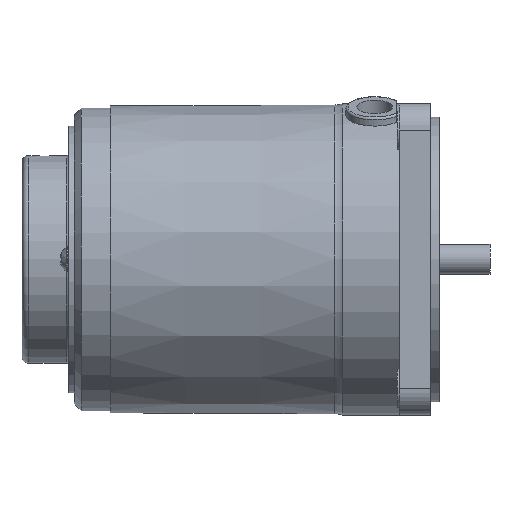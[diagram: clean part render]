
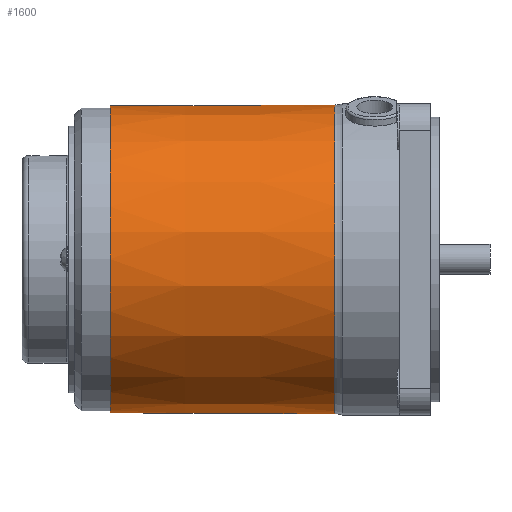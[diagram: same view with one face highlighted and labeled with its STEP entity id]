
A CAD part, top view. The second image highlights one B-rep face of the part: STEP entity #1600.
In plain terms, the highlighted conical face has half-angle 0.227 degrees and reference radius 34.6 mm.
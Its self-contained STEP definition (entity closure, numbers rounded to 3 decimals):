
#1566=CARTESIAN_POINT('',(8.0,34.5,0.0));
#1567=VERTEX_POINT('',#1566);
#1568=CARTESIAN_POINT('',(8.,0.,0.0));
#1569=DIRECTION('',(1.0,0.0,0.0));
#1570=DIRECTION('',(0.0,1.0,0.0));
#1571=AXIS2_PLACEMENT_3D('',#1568,#1569,#1570);
#1572=CIRCLE('',#1571,34.5);
#1573=EDGE_CURVE('',#1567,#1567,#1572,.T.);
#1581=CARTESIAN_POINT('',(33.23,0.,0.0));
#1582=DIRECTION('',(1.0,0.,0.0));
#1583=DIRECTION('',(0.0,1.0,0.0));
#1584=AXIS2_PLACEMENT_3D('',#1581,#1582,#1583);
#1585=CONICAL_SURFACE('',#1584,34.6,0.227);
#1586=CARTESIAN_POINT('',(58.46,34.7,0.0));
#1587=VERTEX_POINT('',#1586);
#1588=CARTESIAN_POINT('',(58.46,0.,0.0));
#1589=DIRECTION('',(1.0,0.0,0.0));
#1590=DIRECTION('',(0.0,1.0,0.0));
#1591=AXIS2_PLACEMENT_3D('',#1588,#1589,#1590);
#1592=CIRCLE('',#1591,34.7);
#1593=EDGE_CURVE('',#1587,#1587,#1592,.T.);
#1594=ORIENTED_EDGE('',*,*,#1593,.F.);
#1595=EDGE_LOOP('',(#1594));
#1596=FACE_OUTER_BOUND('',#1595,.T.);
#1597=ORIENTED_EDGE('',*,*,#1573,.T.);
#1598=EDGE_LOOP('',(#1597));
#1599=FACE_BOUND('',#1598,.T.);
#1600=ADVANCED_FACE('',(#1596,#1599),#1585,.T.);
